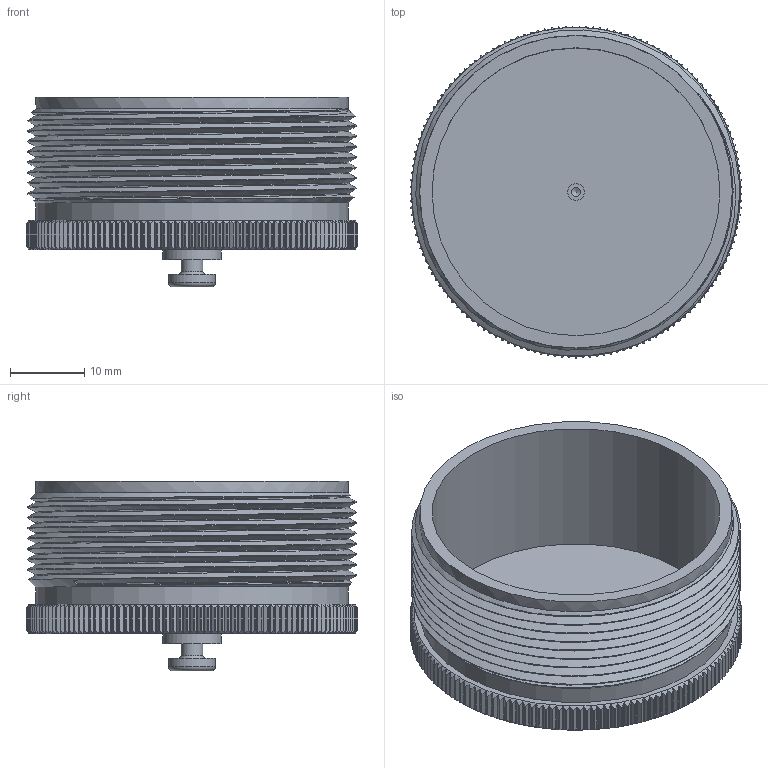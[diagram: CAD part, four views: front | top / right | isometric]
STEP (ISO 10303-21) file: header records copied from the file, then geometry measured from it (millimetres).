
FILE_DESCRIPTION (( 'STEP AP203' ), '1' );
FILE_NAME ('DMS25042-28D (without chain).STEP', '2020-03-09T07:20:19', ( '' ), ( '' ), 'SwSTEP 2.0', 'SolidWorks 2018', '' );
FILE_SCHEMA (( 'CONFIG_CONTROL_DESIGN' ));
Length unit declared in the file: millimetre
Products named in the file (1): DMS25042-28D (without chain)
Bounding box: 44.85 x 44.85 x 25.64 mm (x, y, z)
Volume: 7712.3 mm3; surface area: 9790.1 mm2
Topology: 1 solids, 1 shells, 922 faces, 2738 edges, 1824 vertices
Faces by surface type: cylinder 605, plane 307, cone 5, bspline 3, torus 2
Full cylindrical faces by diameter (mm): 1.2 x1, 2.23 x1, 2.9 x1, 6.35 x1, 7.94 x1, 38.89 x1, 42.24 x2
Entity records: 40028 total; most frequent: CARTESIAN_POINT 18030, ORIENTED_EDGE 5434, DIRECTION 3374, EDGE_CURVE 2717, VERTEX_POINT 1818, B_SPLINE_CURVE_WITH_KNOTS 1499, AXIS2_PLACEMENT_3D 1240, EDGE_LOOP 943
